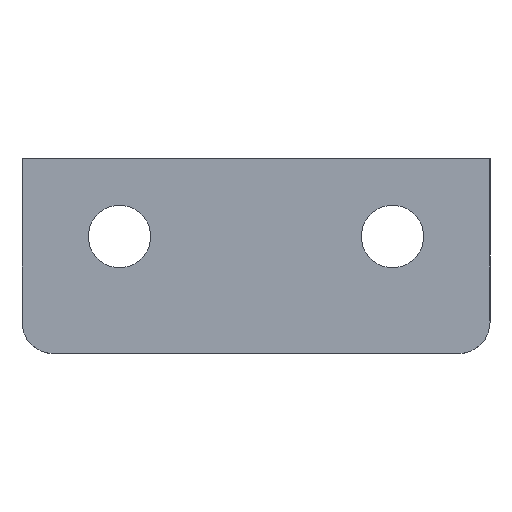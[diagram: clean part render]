
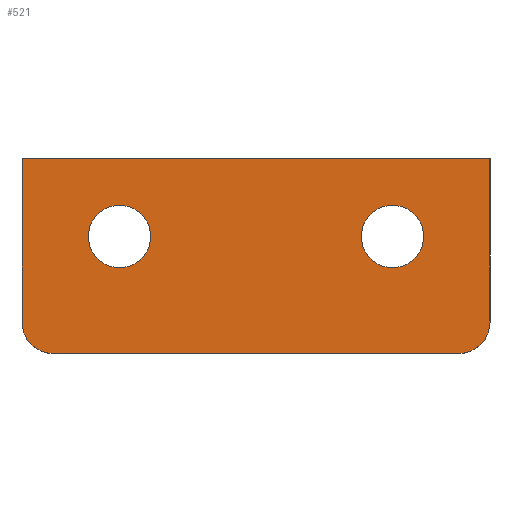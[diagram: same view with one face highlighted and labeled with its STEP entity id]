
A CAD part, top view. The second image highlights one B-rep face of the part: STEP entity #521.
In plain terms, the highlighted planar face has unit normal (0, 0, 1).
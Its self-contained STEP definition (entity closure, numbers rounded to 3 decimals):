
#250=CIRCLE('',#502,8.);
#251=CIRCLE('',#503,8.);
#252=CIRCLE('',#504,8.);
#253=CIRCLE('',#505,8.);
#270=ORIENTED_EDGE('',*,*,#355,.F.);
#271=ORIENTED_EDGE('',*,*,#356,.T.);
#272=ORIENTED_EDGE('',*,*,#357,.T.);
#273=ORIENTED_EDGE('',*,*,#344,.T.);
#274=ORIENTED_EDGE('',*,*,#353,.F.);
#275=ORIENTED_EDGE('',*,*,#358,.T.);
#276=ORIENTED_EDGE('',*,*,#359,.F.);
#277=ORIENTED_EDGE('',*,*,#360,.F.);
#300=VECTOR('',#400,1.);
#305=VECTOR('',#417,1.);
#307=VECTOR('',#421,1.);
#308=VECTOR('',#424,1.);
#314=LINE('',#453,#300);
#319=LINE('',#471,#305);
#321=LINE('',#476,#307);
#322=LINE('',#479,#308);
#328=VERTEX_POINT('',#450);
#329=VERTEX_POINT('',#452);
#336=VERTEX_POINT('',#470);
#337=VERTEX_POINT('',#474);
#338=VERTEX_POINT('',#475);
#339=VERTEX_POINT('',#477);
#340=VERTEX_POINT('',#481);
#341=VERTEX_POINT('',#483);
#344=EDGE_CURVE('',#329,#328,#314,.T.);
#353=EDGE_CURVE('',#336,#328,#319,.T.);
#355=EDGE_CURVE('',#337,#338,#321,.T.);
#356=EDGE_CURVE('',#337,#339,#250,.T.);
#357=EDGE_CURVE('',#339,#329,#322,.T.);
#358=EDGE_CURVE('',#336,#338,#251,.T.);
#359=EDGE_CURVE('',#340,#340,#252,.T.);
#360=EDGE_CURVE('',#341,#341,#253,.T.);
#369=EDGE_LOOP('',(#270,#271,#272,#273,#274,#275));
#370=EDGE_LOOP('',(#276));
#371=EDGE_LOOP('',(#277));
#385=FACE_BOUND('',#369,.T.);
#386=FACE_BOUND('',#370,.T.);
#387=FACE_BOUND('',#371,.T.);
#400=DIRECTION('',(-120.,0.,0.));
#417=DIRECTION('',(0.,42.,0.));
#419=DIRECTION('',(0.,0.,1.));
#420=DIRECTION('',(0.,-1.,0.));
#421=DIRECTION('',(-104.,0.,0.));
#422=DIRECTION('',(0.,0.,1.));
#423=DIRECTION('',(0.,-8.,0.));
#424=DIRECTION('',(0.,42.,0.));
#425=DIRECTION('',(0.,0.,1.));
#426=DIRECTION('',(0.,-8.,0.));
#427=DIRECTION('',(0.,0.,1.));
#428=DIRECTION('',(0.,-8.,0.));
#429=DIRECTION('',(0.,0.,1.));
#430=DIRECTION('',(0.,-8.,0.));
#450=CARTESIAN_POINT('',(0.,25.,4.));
#452=CARTESIAN_POINT('',(120.,25.,4.));
#453=CARTESIAN_POINT('',(120.,25.,4.));
#470=CARTESIAN_POINT('',(0.,-17.,4.));
#471=CARTESIAN_POINT('',(0.,-17.,4.));
#473=CARTESIAN_POINT('',(120.,25.,4.));
#474=CARTESIAN_POINT('',(112.,-25.,4.));
#475=CARTESIAN_POINT('',(8.,-25.,4.));
#476=CARTESIAN_POINT('',(112.,-25.,4.));
#477=CARTESIAN_POINT('',(120.,-17.,4.));
#478=CARTESIAN_POINT('',(112.,-17.,4.));
#479=CARTESIAN_POINT('',(120.,-17.,4.));
#480=CARTESIAN_POINT('',(8.,-17.,4.));
#481=CARTESIAN_POINT('',(25.,-3.,4.));
#482=CARTESIAN_POINT('',(25.,5.,4.));
#483=CARTESIAN_POINT('',(95.,-3.,4.));
#484=CARTESIAN_POINT('',(95.,5.,4.));
#501=AXIS2_PLACEMENT_3D('',#473,#419,#420);
#502=AXIS2_PLACEMENT_3D('',#478,#422,#423);
#503=AXIS2_PLACEMENT_3D('',#480,#425,#426);
#504=AXIS2_PLACEMENT_3D('',#482,#427,#428);
#505=AXIS2_PLACEMENT_3D('',#484,#429,#430);
#515=PLANE('',#501);
#521=ADVANCED_FACE('',(#385,#386,#387),#515,.T.);
